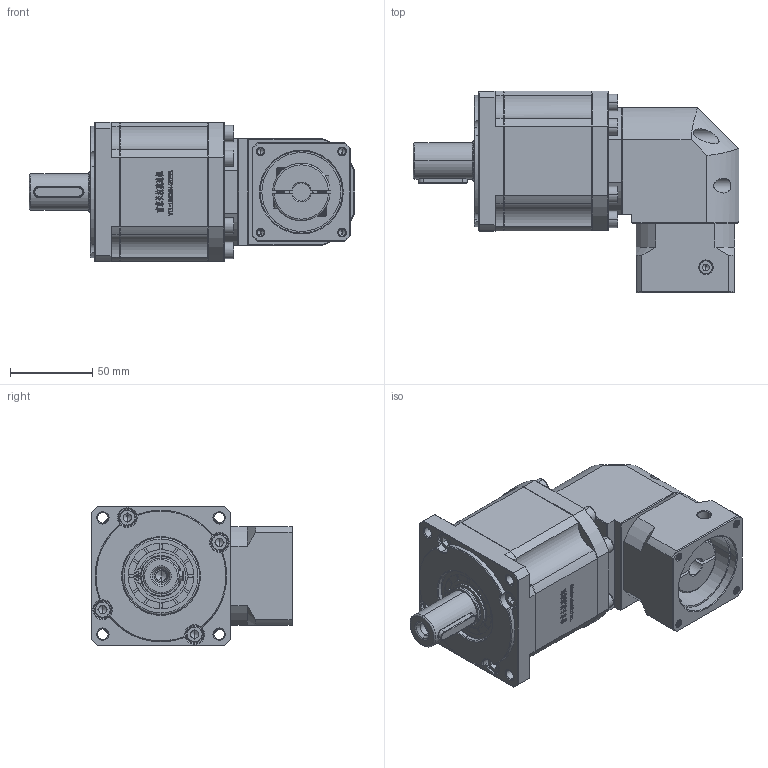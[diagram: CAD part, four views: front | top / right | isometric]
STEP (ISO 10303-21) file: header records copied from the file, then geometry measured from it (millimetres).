
FILE_DESCRIPTION (( 'STEP AP214' ), '1' );
FILE_NAME ('ZBR90-D22-L3-11-50-70-M5.step', '2022-05-07T15:21:29', ( '' ), ( 'Microsoft' ), 'SwSTEP 2.0', 'SolidWorks 2016', '' );
FILE_SCHEMA (( 'AUTOMOTIVE_DESIGN' ));
Length unit declared in the file: millimetre
Products named in the file (1): ZBR90-D22-L3-11-50-70-M5
Bounding box: 198 x 122.7 x 85 mm (x, y, z)
Volume: 923499.8 mm3; surface area: 105698.6 mm2
Topology: 5 solids, 5 shells, 3039 faces, 8162 edges, 5267 vertices
Faces by surface type: plane 1598, bspline 608, cylinder 445, cone 368, torus 20
Entity records: 163513 total; most frequent: CARTESIAN_POINT 58562, ORIENTED_EDGE 16232, DIRECTION 12527, EDGE_CURVE 8116, LINE 5349, VECTOR 5349, VERTEX_POINT 5267, AXIS2_PLACEMENT_3D 3589
